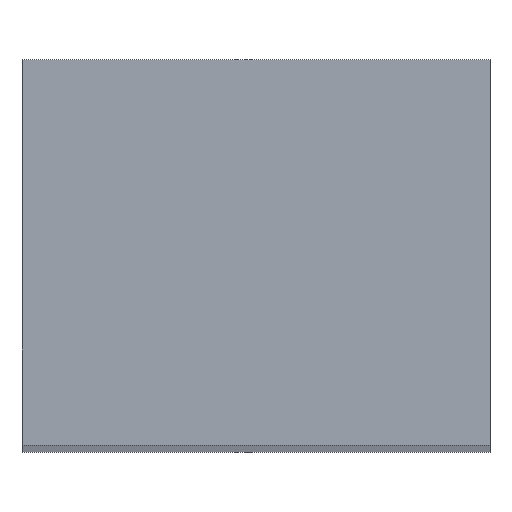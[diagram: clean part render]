
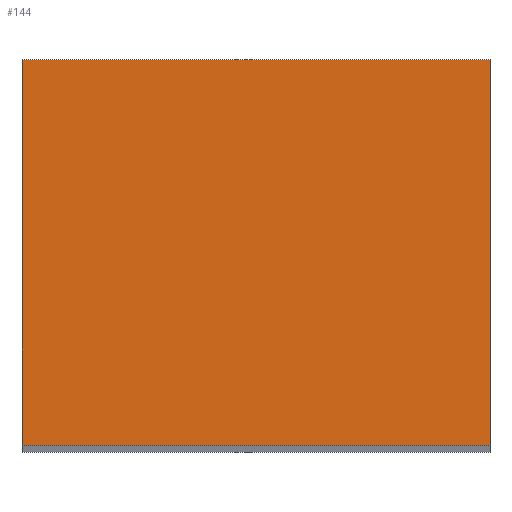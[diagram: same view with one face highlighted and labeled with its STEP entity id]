
A CAD part, top view. The second image highlights one B-rep face of the part: STEP entity #144.
In plain terms, the highlighted planar face has unit normal (0, 0, 1).
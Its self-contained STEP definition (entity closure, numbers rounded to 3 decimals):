
#3 = CARTESIAN_POINT ( 'NONE',  ( 0., 0., 150. ) ) ;
#4 = EDGE_CURVE ( 'NONE', #326, #148, #23, .T. ) ;
#23 = LINE ( 'NONE', #127, #95 ) ;
#39 = PLANE ( 'NONE',  #60 ) ;
#43 = VECTOR ( 'NONE', #74, 1000. ) ;
#58 = DIRECTION ( 'NONE',  ( 0., -1., 0. ) ) ;
#60 = AXIS2_PLACEMENT_3D ( 'NONE', #3, #173, #179 ) ;
#74 = DIRECTION ( 'NONE',  ( 1., 0., 0. ) ) ;
#89 = VERTEX_POINT ( 'NONE', #107 ) ;
#91 = VERTEX_POINT ( 'NONE', #372 ) ;
#95 = VECTOR ( 'NONE', #58, 1000. ) ;
#103 = EDGE_CURVE ( 'NONE', #89, #326, #412, .T. ) ;
#107 = CARTESIAN_POINT ( 'NONE',  ( 8.5, 7., 150. ) ) ;
#127 = CARTESIAN_POINT ( 'NONE',  ( -8.5, 7., 150. ) ) ;
#142 = CARTESIAN_POINT ( 'NONE',  ( -8.5, 7., 150. ) ) ;
#144 = ADVANCED_FACE ( 'NONE', ( #177 ), #39, .T. ) ;
#148 = VERTEX_POINT ( 'NONE', #380 ) ;
#164 = DIRECTION ( 'NONE',  ( 0., 1., 0. ) ) ;
#165 = ORIENTED_EDGE ( 'NONE', *, *, #4, .T. ) ;
#171 = CARTESIAN_POINT ( 'NONE',  ( -8.5, -7., 150. ) ) ;
#173 = DIRECTION ( 'NONE',  ( 0., 0., 1. ) ) ;
#177 = FACE_OUTER_BOUND ( 'NONE', #226, .T. ) ;
#178 = EDGE_CURVE ( 'NONE', #148, #91, #311, .T. ) ;
#179 = DIRECTION ( 'NONE',  ( 1., 0., 0. ) ) ;
#197 = VECTOR ( 'NONE', #343, 1000. ) ;
#226 = EDGE_LOOP ( 'NONE', ( #297, #266, #165, #230 ) ) ;
#230 = ORIENTED_EDGE ( 'NONE', *, *, #178, .T. ) ;
#266 = ORIENTED_EDGE ( 'NONE', *, *, #103, .T. ) ;
#297 = ORIENTED_EDGE ( 'NONE', *, *, #373, .T. ) ;
#311 = LINE ( 'NONE', #171, #43 ) ;
#326 = VERTEX_POINT ( 'NONE', #404 ) ;
#331 = CARTESIAN_POINT ( 'NONE',  ( 8.5, 7., 150. ) ) ;
#343 = DIRECTION ( 'NONE',  ( -1., 0., 0. ) ) ;
#358 = LINE ( 'NONE', #331, #432 ) ;
#372 = CARTESIAN_POINT ( 'NONE',  ( 8.5, -7., 150. ) ) ;
#373 = EDGE_CURVE ( 'NONE', #91, #89, #358, .T. ) ;
#380 = CARTESIAN_POINT ( 'NONE',  ( -8.5, -7., 150. ) ) ;
#404 = CARTESIAN_POINT ( 'NONE',  ( -8.5, 7., 150. ) ) ;
#412 = LINE ( 'NONE', #142, #197 ) ;
#432 = VECTOR ( 'NONE', #164, 1000. ) ;
